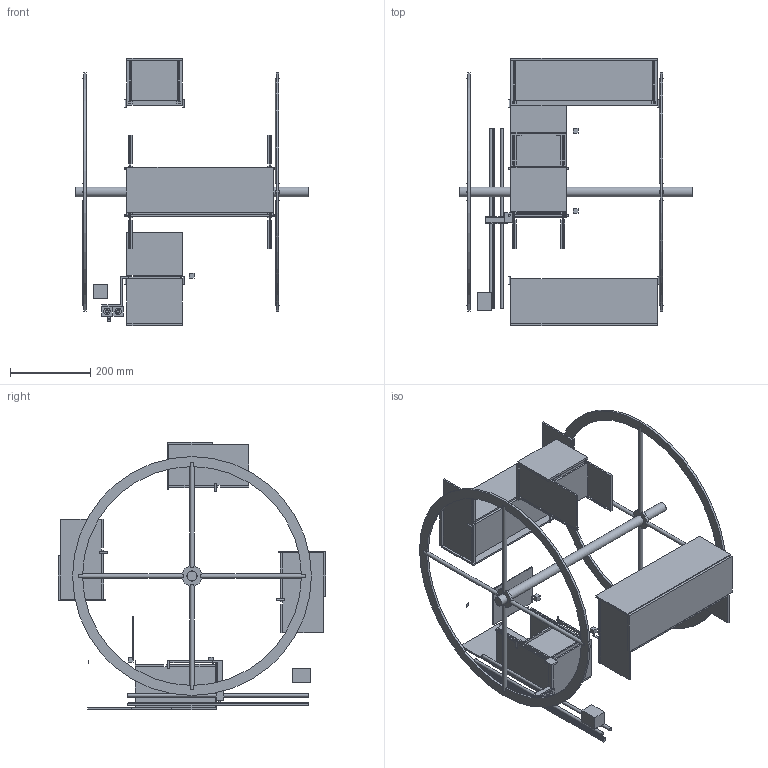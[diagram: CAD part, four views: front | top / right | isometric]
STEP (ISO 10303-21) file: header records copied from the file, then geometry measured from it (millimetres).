
FILE_DESCRIPTION(('FreeCAD Model'),'2;1');
FILE_NAME('Open CASCADE Shape Model','2026-10-19T11:25:06',('FreeCAD'),( 'FreeCAD'),'Open CASCADE STEP processor 7.8','FreeCAD','Unknown');
FILE_SCHEMA(('AUTOMOTIVE_DESIGN { 1 0 10303 214 1 1 1 1 }'));
Length unit declared in the file: millimetre
Products named in the file (1): Open CASCADE STEP translator 7.8 13
Bounding box: 580.5 x 668 x 668 mm (x, y, z)
Volume: 12644847.9 mm3; surface area: 2040142.5 mm2
Topology: 53 solids, 53 shells, 1529 faces, 4302 edges, 2868 vertices
Faces by surface type: plane 1484, cylinder 45
Full cylindrical faces by diameter (mm): 4 x8, 8 x2, 8.5 x2, 10 x8, 16 x4, 24 x1, 26 x2, 596 x2
Entity records: 48948 total; most frequent: CARTESIAN_POINT 9388, ORIENTED_EDGE 8604, DIRECTION 7428, EDGE_CURVE 4302, LINE 4148, VECTOR 4148, VERTEX_POINT 2868, AXIS2_PLACEMENT_3D 1640
